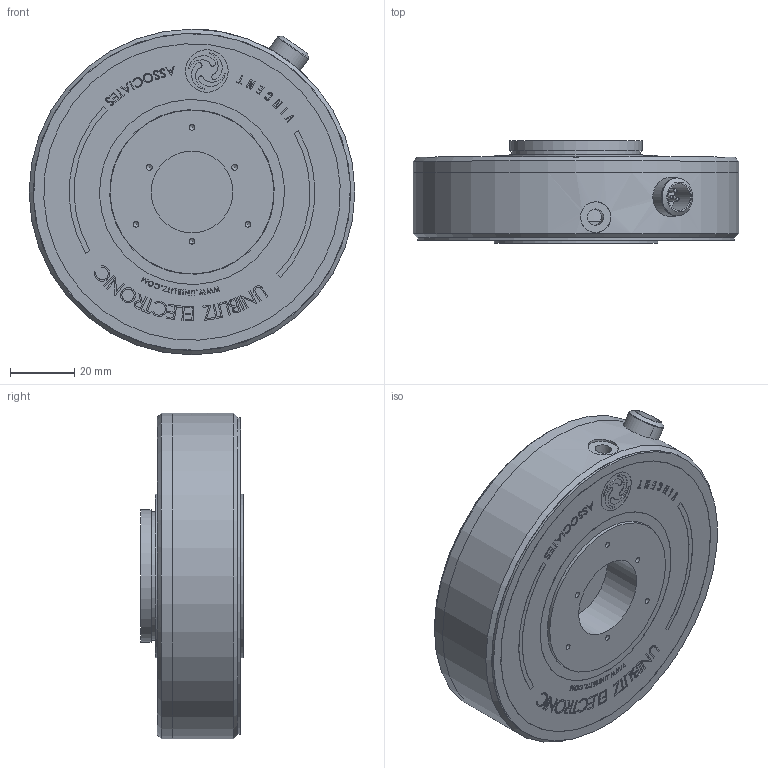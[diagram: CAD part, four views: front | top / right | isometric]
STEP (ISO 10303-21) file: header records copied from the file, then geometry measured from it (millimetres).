
FILE_DESCRIPTION (( 'STEP AP214' ), '1' );
FILE_NAME ('XRS25S3T0_DUMB_5P.STEP', '2023-04-24T11:14:23', ( '' ), ( '' ), 'SwSTEP 2.0', 'SolidWorks 2022', '' );
FILE_SCHEMA (( 'AUTOMOTIVE_DESIGN' ));
Length unit declared in the file: inch
Products named in the file (7): 5-pinM-Cs25_Male; Vs25casedual_5PINSWC; Spacer-Cs25; XRS25S3T0_DUMB_5P; Vs25namepl; Vs25cover_Std; 4-40 Phillips  P. H. Screw_L .312
Assembly tree (9 placements, depth 2):
  XRS25S3T0_DUMB_5P
    Vs25casedual_5PINSWC
    Vs25cover_Std
    Vs25namepl
    4-40 Phillips  P. H. Screw_L .312  x4
    5-pinM-Cs25_Male
    Spacer-Cs25
Bounding box: 101.09 x 31.8 x 101.09 mm (x, y, z)
Volume: 98650.4 mm3; surface area: 75272.1 mm2
Topology: 9 solids, 11 shells, 1030 faces, 2512 edges, 1601 vertices
Faces by surface type: plane 562, cylinder 176, bspline 159, cone 119, torus 10, sphere 4
Full cylindrical faces by diameter (mm): 1.143 x10, 1.27 x5, 1.778 x8, 2.261 x4, 2.845 x52, 3.251 x4, 5.105 x1, 5.207 x4, 5.563 x4, 8.484 x1, 9.525 x1, 9.921 x1, 11.227 x1, 11.811 x2, 12.065 x1, 13.208 x1, 25.4 x2, 27.94 x1, 33.02 x1, 39.878 x1, 41.275 x1, 50.8 x2, 51.054 x1, 57.404 x1, 73.66 x2, 88.138 x1, 92.075 x1, 98.425 x2, 98.45 x1, 101.092 x2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
Entity records: 43933 total; most frequent: CARTESIAN_POINT 14843, ORIENTED_EDGE 4054, DIRECTION 3418, EDGE_CURVE 2027, VERTEX_POINT 1398, LINE 1384, VECTOR 1384, EDGE_LOOP 1103
